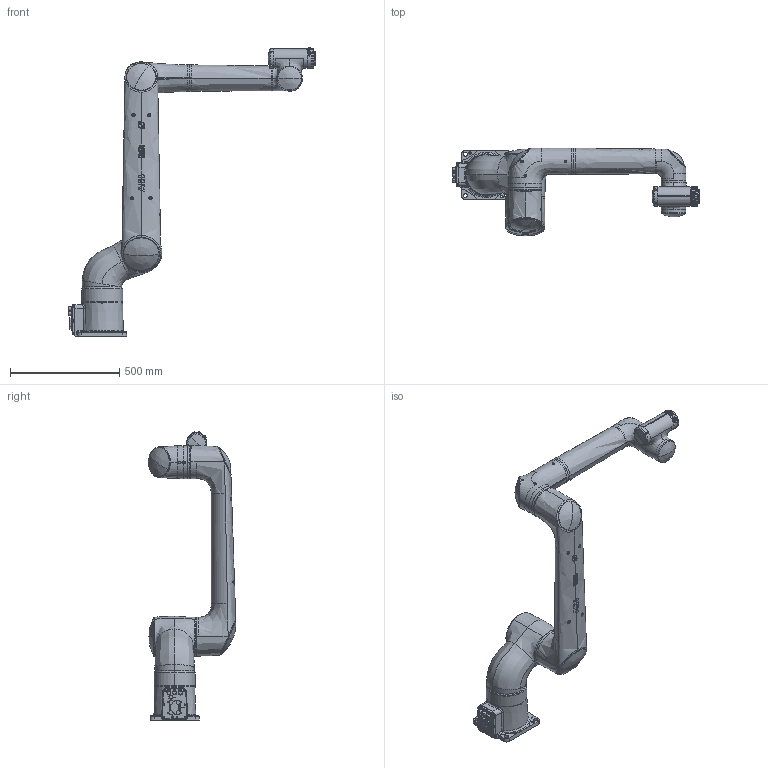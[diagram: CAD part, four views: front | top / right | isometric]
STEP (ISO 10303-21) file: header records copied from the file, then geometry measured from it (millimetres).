
FILE_DESCRIPTION (( 'STEP AP214' ), '1' );
FILE_NAME ('CRB1920_20kg-1670_OmniCore_rev00_Assembly.STEP', '2026-03-06T03:31:35', ( '' ), ( '' ), 'SwSTEP 2.0', 'SolidWorks 2022', '' );
FILE_SCHEMA (( 'AUTOMOTIVE_DESIGN' ));
Length unit declared in the file: millimetre
Products named in the file (8): CRB1920_20kg-1670_OmniCore_rev00_Link4_CAD; CRB1920_20kg-1670_OmniCore_rev00_Link1_CAD; CRB1920_20kg-1670_OmniCore_rev00_Link3_CAD; CRB1920_20kg-1670_OmniCore_rev00_Assembly; CRB1920_20kg-1670_OmniCore_rev00_Link0_CAD; CRB1920_20kg-1670_OmniCore_rev00_Link6_CAD; CRB1920_20kg-1670_OmniCore_rev00_Link5_CAD; CRB1920_20kg-1670_OmniCore_rev00_Link2_CAD
Assembly tree (7 placements, depth 2):
  CRB1920_20kg-1670_OmniCore_rev00_Assembly
    CRB1920_20kg-1670_OmniCore_rev00_Link0_CAD
    CRB1920_20kg-1670_OmniCore_rev00_Link1_CAD
    CRB1920_20kg-1670_OmniCore_rev00_Link2_CAD
    CRB1920_20kg-1670_OmniCore_rev00_Link3_CAD
    CRB1920_20kg-1670_OmniCore_rev00_Link4_CAD
    CRB1920_20kg-1670_OmniCore_rev00_Link5_CAD
    CRB1920_20kg-1670_OmniCore_rev00_Link6_CAD
Bounding box: 1135 x 402.05 x 1321.6 mm (x, y, z)
Volume: 46486922.4 mm3; surface area: 1602908.8 mm2
Topology: 7 solids, 7 shells, 2441 faces, 6271 edges, 4045 vertices
Faces by surface type: bspline 1175, plane 582, cylinder 373, cone 240, torus 69, sphere 2
Entity records: 238947 total; most frequent: CARTESIAN_POINT 187178, ORIENTED_EDGE 12442, DIRECTION 6292, EDGE_CURVE 6221, VERTEX_POINT 4045, B_SPLINE_CURVE_WITH_KNOTS 3534, EDGE_LOOP 2710, ADVANCED_FACE 2441
